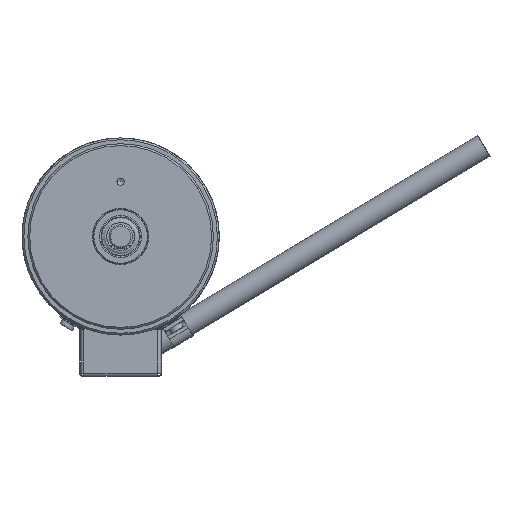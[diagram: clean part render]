
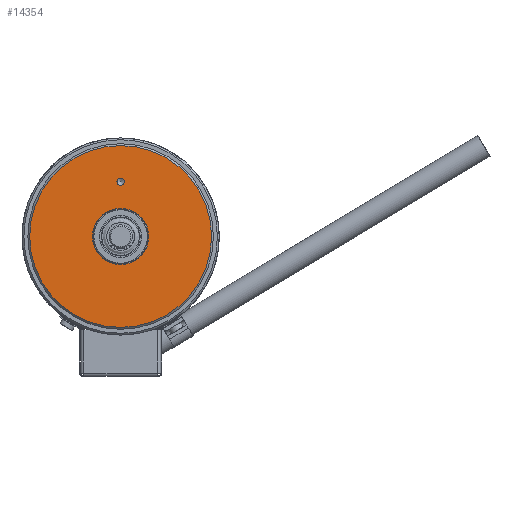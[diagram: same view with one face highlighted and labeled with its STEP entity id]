
A CAD part, left-side view. The second image highlights one B-rep face of the part: STEP entity #14354.
In plain terms, the highlighted planar face has unit normal (-1, 0, 0).
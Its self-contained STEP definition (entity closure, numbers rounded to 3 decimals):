
#3574=PLANE('',#19372);
#4131=ORIENTED_EDGE('',*,*,#8261,.T.);
#4132=ORIENTED_EDGE('',*,*,#8262,.T.);
#4133=ORIENTED_EDGE('',*,*,#8260,.F.);
#8260=EDGE_CURVE('',#10325,#10325,#11739,.T.);
#8261=EDGE_CURVE('',#10326,#10326,#11740,.T.);
#8262=EDGE_CURVE('',#10327,#10327,#11741,.T.);
#10325=VERTEX_POINT('',#24142);
#10326=VERTEX_POINT('',#24145);
#10327=VERTEX_POINT('',#24147);
#11739=CIRCLE('',#19371,3.85);
#11740=CIRCLE('',#19373,0.5);
#11741=CIRCLE('',#19374,12.45);
#12059=EDGE_LOOP('',(#4131));
#12060=EDGE_LOOP('',(#4132));
#12061=EDGE_LOOP('',(#4133));
#13122=FACE_BOUND('',#12059,.T.);
#13123=FACE_BOUND('',#12060,.T.);
#13124=FACE_BOUND('',#12061,.T.);
#14354=ADVANCED_FACE('',(#13122,#13123,#13124),#3574,.T.);
#19371=AXIS2_PLACEMENT_3D('',#24141,#20494,#20495);
#19372=AXIS2_PLACEMENT_3D('',#24143,#20496,#20497);
#19373=AXIS2_PLACEMENT_3D('',#24144,#20498,#20499);
#19374=AXIS2_PLACEMENT_3D('',#24146,#20500,#20501);
#20494=DIRECTION('',(-1.,0.,0.));
#20495=DIRECTION('',(0.,0.,1.));
#20496=DIRECTION('',(-1.,0.,0.));
#20497=DIRECTION('',(0.,0.,1.));
#20498=DIRECTION('',(1.,0.,0.));
#20499=DIRECTION('',(0.,0.,1.));
#20500=DIRECTION('',(-1.,0.,0.));
#20501=DIRECTION('',(0.,0.,1.));
#24141=CARTESIAN_POINT('',(0.,0.,0.));
#24142=CARTESIAN_POINT('',(0.,0.,3.85));
#24143=CARTESIAN_POINT('',(0.,3.85,0.));
#24144=CARTESIAN_POINT('',(0.,0.,7.5));
#24145=CARTESIAN_POINT('',(0.,0.,8.));
#24146=CARTESIAN_POINT('',(0.,0.,0.));
#24147=CARTESIAN_POINT('',(0.,0.,12.45));
